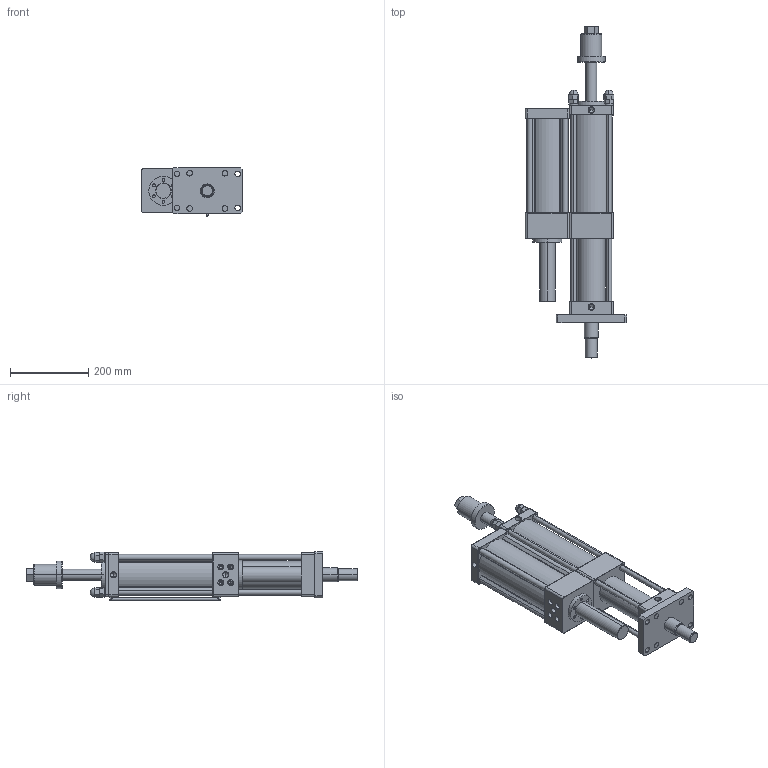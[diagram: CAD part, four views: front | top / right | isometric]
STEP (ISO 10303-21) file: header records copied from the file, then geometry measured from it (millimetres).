
FILE_DESCRIPTION (( 'STEP AP203' ), '1' );
FILE_NAME ('MPTD-80-100-10-8T.STEP', '2016-03-18T02:27:05', ( 'WIN' ), ( '' ), 'SwSTEP 2.0', 'SolidWorks 2014', '' );
FILE_SCHEMA (( 'CONFIG_CONTROL_DESIGN' ));
Length unit declared in the file: millimetre
Products named in the file (1): MPTD-80-100-10-8T
Bounding box: 258 x 847 x 124 mm (x, y, z)
Volume: 4731649.3 mm3; surface area: 897528.5 mm2
Topology: 5 solids, 13 shells, 566 faces, 1325 edges, 817 vertices
Faces by surface type: plane 303, cylinder 199, cone 56, torus 8
Entity records: 16018 total; most frequent: CARTESIAN_POINT 2959, DIRECTION 2823, ORIENTED_EDGE 2598, EDGE_CURVE 1299, AXIS2_PLACEMENT_3D 1049, VERTEX_POINT 817, VECTOR 725, LINE 725
